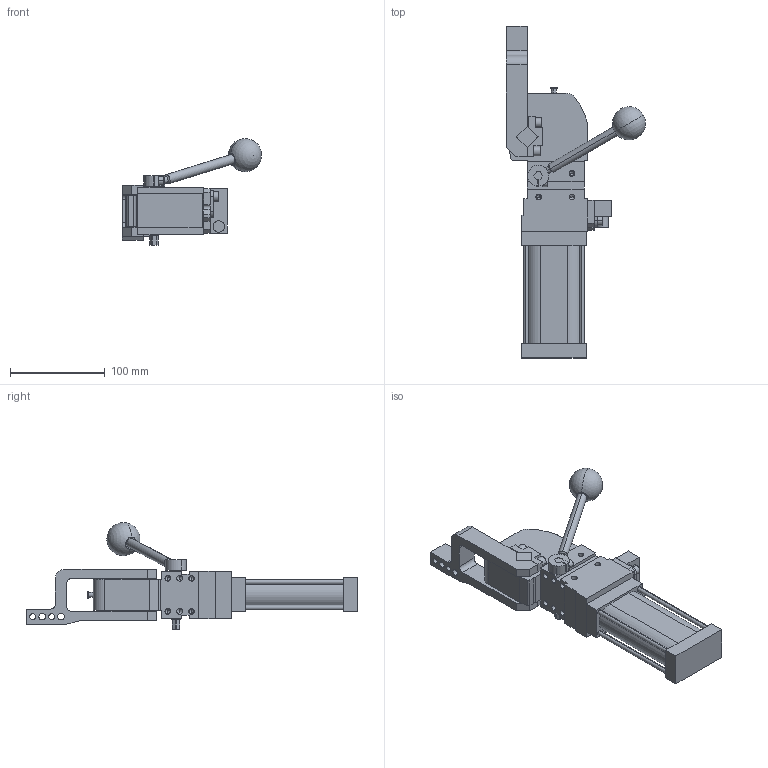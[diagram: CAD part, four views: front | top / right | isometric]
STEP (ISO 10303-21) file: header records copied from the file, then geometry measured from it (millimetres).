
FILE_DESCRIPTION (( 'STEP AP214' ), '1' );
FILE_NAME ('cplm40lah2di1g_108.STEP', '2021-05-25T12:25:32', ( '' ), ( '' ), 'SwSTEP 2.0', 'SolidWorks 2021', '' );
FILE_SCHEMA (( 'AUTOMOTIVE_DESIGN' ));
Length unit declared in the file: millimetre
Products named in the file (6): comando_manuale_cplm_40; piastra_blocchetto_cpl40; cplm40lah2di1g_108; meccanica_cplm40; blocchetto_VEP_0_cpl40; leva_v2s_cpl40
Assembly tree (5 placements, depth 2):
  cplm40lah2di1g_108
    meccanica_cplm40
    blocchetto_VEP_0_cpl40
    piastra_blocchetto_cpl40
    leva_v2s_cpl40
    comando_manuale_cplm_40
Bounding box: 146.69 x 350 x 112.66 mm (x, y, z)
Volume: 801488.4 mm3; surface area: 124975 mm2
Topology: 6 solids, 6 shells, 457 faces, 1171 edges, 737 vertices
Faces by surface type: plane 255, cylinder 154, cone 46, sphere 2
Entity records: 15175 total; most frequent: CARTESIAN_POINT 2441, DIRECTION 2414, ORIENTED_EDGE 2248, EDGE_CURVE 1124, AXIS2_PLACEMENT_3D 829, LINE 756, VECTOR 756, VERTEX_POINT 734
